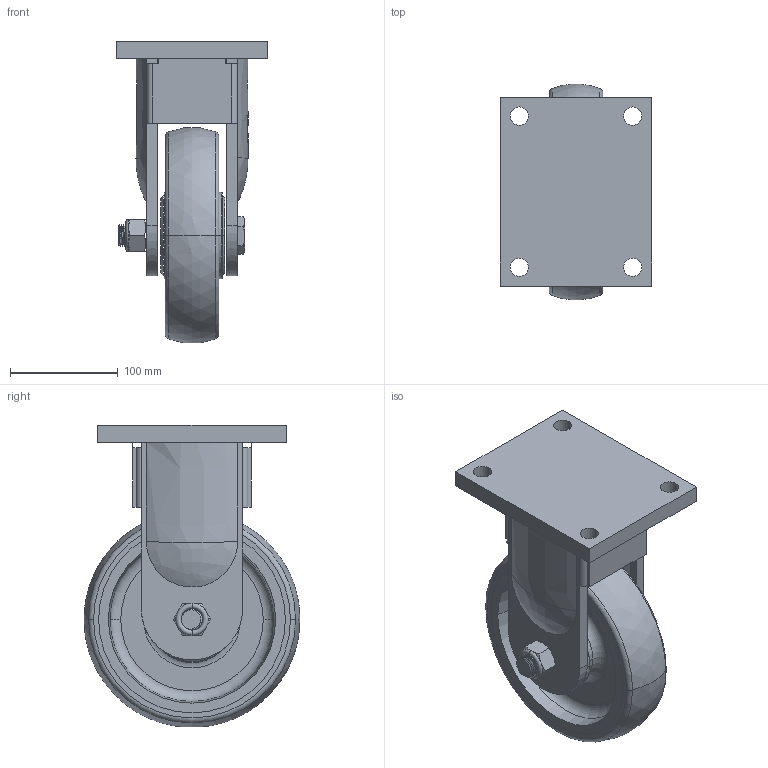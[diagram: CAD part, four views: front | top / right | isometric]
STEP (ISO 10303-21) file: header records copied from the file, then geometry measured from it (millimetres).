
FILE_DESCRIPTION((''),'2;1');
FILE_NAME('PRT0008','2025-08-26T16:54:43',('Administrator'),(''),'CREO PARAMETRIC BY PTC INC, 2022124','CREO PARAMETRIC BY PTC INC, 2022124','');
FILE_SCHEMA(('AUTOMOTIVE_DESIGN { 1 0 10303 214 1 1 1 1 }'));
Length unit declared in the file: millimetre
Products named in the file (1): PRT0008
Bounding box: 140 x 199.67 x 279.53 mm (x, y, z)
Surface area: 275045.1 mm2 (no closed solid volume)
Topology: 0 solids, 24 shells, 127 faces, 402 edges, 295 vertices
Faces by surface type: plane 46, cylinder 26, cone 20, bspline 19, torus 16
Entity records: 8150 total; most frequent: CARTESIAN_POINT 3858, DIRECTION 629, ORIENTED_EDGE 615, EDGE_CURVE 400, VERTEX_POINT 295, AXIS2_PLACEMENT_3D 242, EDGE_LOOP 151, VECTOR 142
